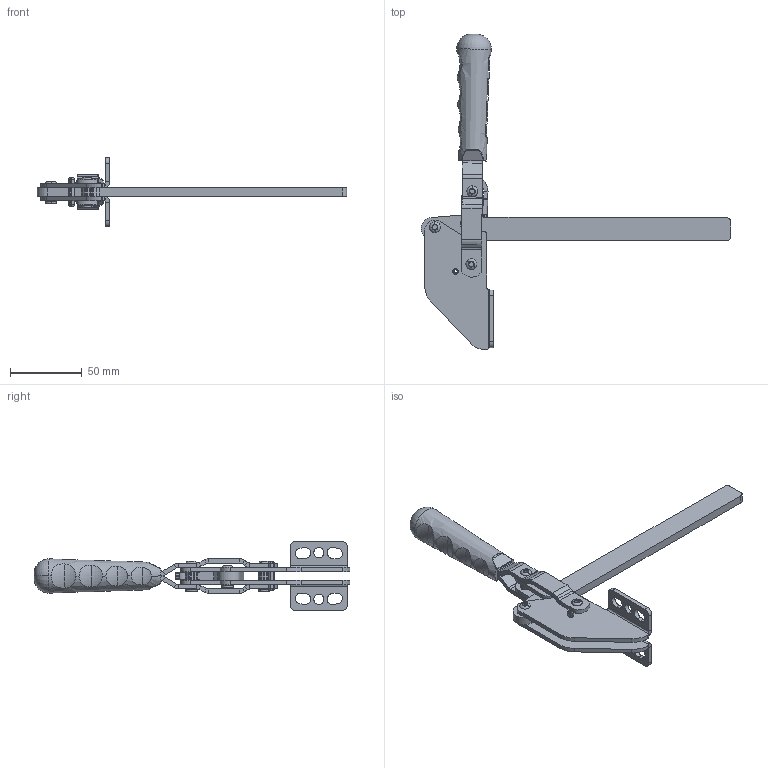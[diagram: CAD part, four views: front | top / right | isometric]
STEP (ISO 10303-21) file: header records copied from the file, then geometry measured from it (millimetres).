
FILE_DESCRIPTION (( 'STEP AP214' ), '1' );
FILE_NAME ('1103 A-L.STEP', '2022-08-01T09:43:18', ( '' ), ( '' ), 'SwSTEP 2.0', 'SolidWorks 2022', '' );
FILE_SCHEMA (( 'AUTOMOTIVE_DESIGN' ));
Length unit declared in the file: millimetre
Products named in the file (13): C90_Yeni_Tutamak_Varsayılan; 1103_A_GÖVDE_Varsayılan; 1103 A-L; Mirror1103_A_GÖVDE_Varsayılan; 1103 HAREKET KOLU_2022_Varsayılan; 5x17_PERÇİN_Varsayılan; 8x5x6_BURÇ_Varsayılan; 4x20_YARIKLI_PİM_Varsayılan; 1103 L-3_Varsayılan; 5x22_PERÇİN_Varsayılan; 1103 MAFSAL_2022_Varsayılan; Aynalama1103 HAREKET KOLU_2022_Varsayılan; 8x5x12_BURÇ_Varsayılan
Assembly tree (16 placements, depth 2):
  1103 A-L
    1103 HAREKET KOLU_2022_Varsayılan
    1103 MAFSAL_2022_Varsayılan
    8x5x12_BURÇ_Varsayılan  x2
    8x5x6_BURÇ_Varsayılan  x2
    5x22_PERÇİN_Varsayılan  x2
    5x17_PERÇİN_Varsayılan  x2
    Aynalama1103 HAREKET KOLU_2022_Varsayılan
    C90_Yeni_Tutamak_Varsayılan
    1103 L-3_Varsayılan
    1103_A_GÖVDE_Varsayılan
    Mirror1103_A_GÖVDE_Varsayılan
    4x20_YARIKLI_PİM_Varsayılan
Bounding box: 215.13 x 219.34 x 48.15 mm (x, y, z)
Volume: 83515.5 mm3; surface area: 54703.1 mm2
Topology: 16 solids, 16 shells, 1054 faces, 2626 edges, 1669 vertices
Faces by surface type: plane 705, cylinder 230, cone 40, bspline 39, torus 36, sphere 4
Entity records: 26200 total; most frequent: CARTESIAN_POINT 6505, ORIENTED_EDGE 3980, DIRECTION 3930, EDGE_CURVE 1990, VECTOR 1322, LINE 1322, AXIS2_PLACEMENT_3D 1304, VERTEX_POINT 1261
